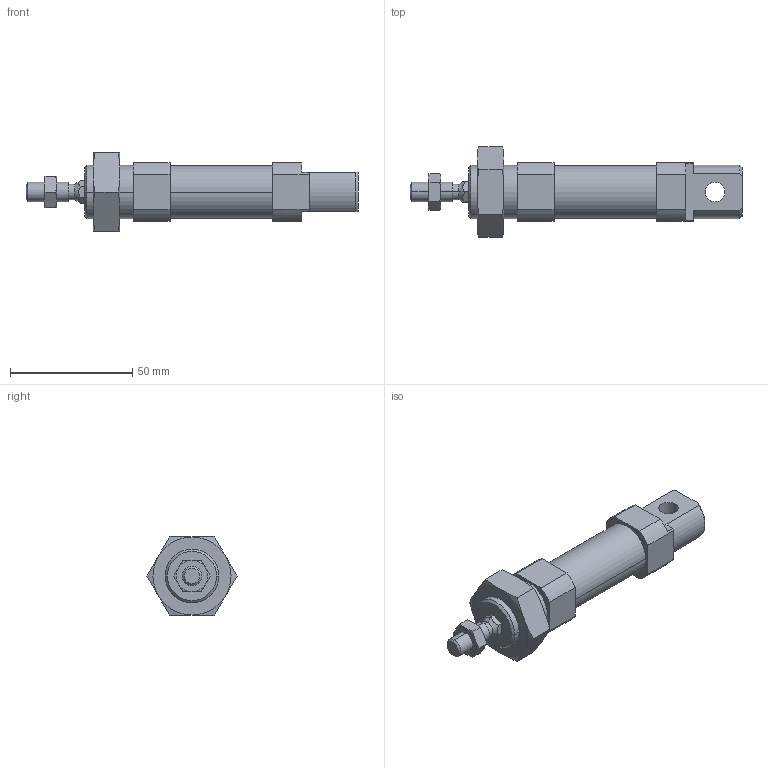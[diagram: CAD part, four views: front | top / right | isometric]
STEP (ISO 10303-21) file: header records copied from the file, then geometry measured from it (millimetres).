
FILE_DESCRIPTION (( 'STEP AP203' ), '1' );
FILE_NAME ('CSMK20-10.STEP', '2020-04-02T10:46:21', ( '' ), ( '' ), 'SwSTEP 2.0', 'SolidWorks 2019', '' );
FILE_SCHEMA (( 'CONFIG_CONTROL_DESIGN' ));
Length unit declared in the file: millimetre
Products named in the file (1): CSMK20-10
Bounding box: 136 x 36.95 x 32 mm (x, y, z)
Volume: 48589.7 mm3; surface area: 18806.8 mm2
Topology: 4 solids, 4 shells, 133 faces, 306 edges, 187 vertices
Faces by surface type: plane 53, cone 48, cylinder 32
Entity records: 4251 total; most frequent: CARTESIAN_POINT 1191, DIRECTION 626, ORIENTED_EDGE 608, EDGE_CURVE 304, AXIS2_PLACEMENT_3D 246, VERTEX_POINT 187, EDGE_LOOP 149, LINE 134
